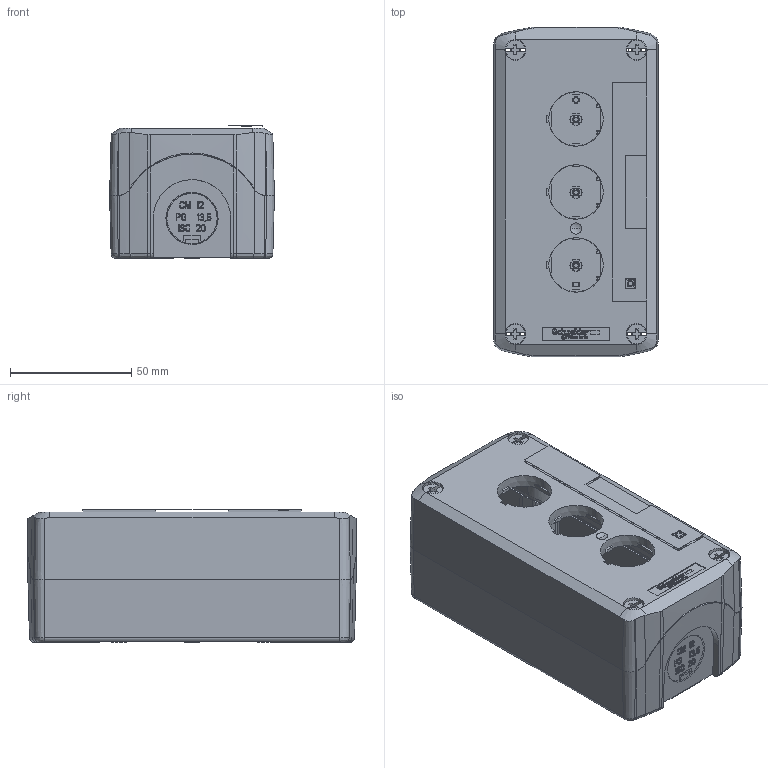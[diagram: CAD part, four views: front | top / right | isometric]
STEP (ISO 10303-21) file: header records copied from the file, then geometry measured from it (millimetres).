
FILE_DESCRIPTION((''),'2;1');
FILE_NAME('156210300AF7_SW0001','2016-02-01T',('EBBX743'),('Schneider-Electric'),'PRO/ENGINEER BY PARAMETRIC TECHNOLOGY CORPORATION, 2014310','PRO/ENGINEER BY PARAMETRIC TECHNOLOGY CORPORATION, 2014310','');
FILE_SCHEMA(('CONFIG_CONTROL_DESIGN'));
Products named in the file (1): 156210300AF7_SW0001
Bounding box: 68 x 136 x 54.8 mm (x, y, z)
Surface area: 88846.4 mm2 (no closed solid volume)
Topology: 0 solids, 254 shells, 1405 faces, 11316 edges, 10074 vertices
Faces by surface type: plane 957, cone 236, bspline 95, extrusion 56, cylinder 43, torus 14, sphere 4
Entity records: 110786 total; most frequent: CARTESIAN_POINT 33040, ORIENTED_EDGE 14179, DIRECTION 13344, EDGE_CURVE 11312, VERTEX_POINT 10074, VECTOR 9224, LINE 9168, AXIS2_PLACEMENT_3D 2060
